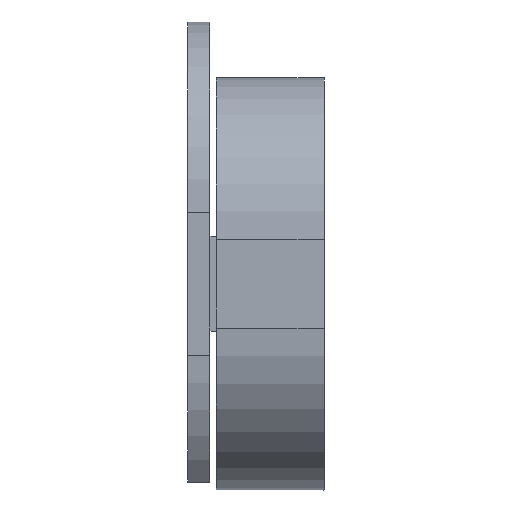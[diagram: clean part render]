
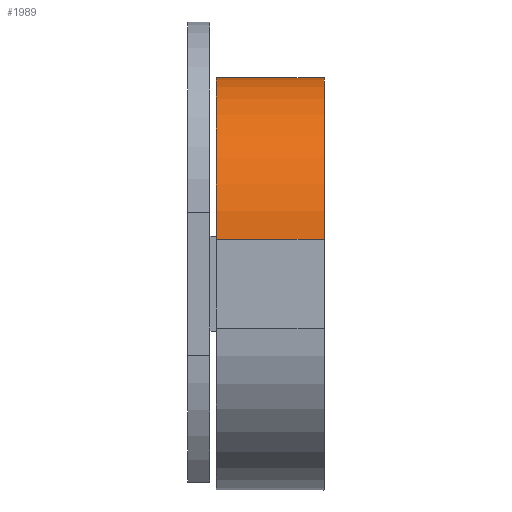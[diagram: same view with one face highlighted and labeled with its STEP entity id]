
A CAD part, front view. The second image highlights one B-rep face of the part: STEP entity #1989.
In plain terms, the highlighted cylindrical face has radius 5.1 mm (diameter 10.2 mm), a partial arc.
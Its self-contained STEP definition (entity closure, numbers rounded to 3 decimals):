
#1142 = PLANE('',#1143);
#1143 = AXIS2_PLACEMENT_3D('',#1144,#1145,#1146);
#1144 = CARTESIAN_POINT('',(40.9,20.5,6.5));
#1145 = DIRECTION('',(1.,0.,0.));
#1146 = DIRECTION('',(0.,0.,-1.));
#1484 = VERTEX_POINT('',#1485);
#1485 = CARTESIAN_POINT('',(40.9,25.6,6.5));
#1501 = PLANE('',#1502);
#1502 = AXIS2_PLACEMENT_3D('',#1503,#1504,#1505);
#1503 = CARTESIAN_POINT('',(40.9,20.5,6.5));
#1504 = DIRECTION('',(0.,0.,-1.));
#1505 = DIRECTION('',(1.,0.,0.));
#1513 = EDGE_CURVE('',#1484,#1514,#1516,.T.);
#1514 = VERTEX_POINT('',#1515);
#1515 = CARTESIAN_POINT('',(40.9,20.5,1.4));
#1516 = SURFACE_CURVE('',#1517,(#1522,#1529),.PCURVE_S1.);
#1517 = CIRCLE('',#1518,5.1);
#1518 = AXIS2_PLACEMENT_3D('',#1519,#1520,#1521);
#1519 = CARTESIAN_POINT('',(40.9,25.6,1.4));
#1520 = DIRECTION('',(1.,0.,0.));
#1521 = DIRECTION('',(0.,-1.,0.));
#1522 = PCURVE('',#1142,#1523);
#1523 = DEFINITIONAL_REPRESENTATION('',(#1524),#1528);
#1524 = CIRCLE('',#1525,5.1);
#1525 = AXIS2_PLACEMENT_2D('',#1526,#1527);
#1526 = CARTESIAN_POINT('',(5.1,5.1));
#1527 = DIRECTION('',(0.,-1.));
#1528 = ( GEOMETRIC_REPRESENTATION_CONTEXT(2) 
PARAMETRIC_REPRESENTATION_CONTEXT() REPRESENTATION_CONTEXT('2D SPACE',''
  ) );
#1529 = PCURVE('',#1530,#1535);
#1530 = CYLINDRICAL_SURFACE('',#1531,5.1);
#1531 = AXIS2_PLACEMENT_3D('',#1532,#1533,#1534);
#1532 = CARTESIAN_POINT('',(40.9,25.6,1.4));
#1533 = DIRECTION('',(1.,0.,0.));
#1534 = DIRECTION('',(0.,0.,1.));
#1535 = DEFINITIONAL_REPRESENTATION('',(#1536),#1540);
#1536 = LINE('',#1537,#1538);
#1537 = CARTESIAN_POINT('',(-4.712,0.));
#1538 = VECTOR('',#1539,1.);
#1539 = DIRECTION('',(1.,0.));
#1540 = ( GEOMETRIC_REPRESENTATION_CONTEXT(2) 
PARAMETRIC_REPRESENTATION_CONTEXT() REPRESENTATION_CONTEXT('2D SPACE',''
  ) );
#1558 = PLANE('',#1559);
#1559 = AXIS2_PLACEMENT_3D('',#1560,#1561,#1562);
#1560 = CARTESIAN_POINT('',(40.9,20.5,6.5));
#1561 = DIRECTION('',(0.,1.,0.));
#1562 = DIRECTION('',(1.,-0.,0.));
#1841 = VERTEX_POINT('',#1842);
#1842 = CARTESIAN_POINT('',(44.3,25.6,6.5));
#1858 = PLANE('',#1859);
#1859 = AXIS2_PLACEMENT_3D('',#1860,#1861,#1862);
#1860 = CARTESIAN_POINT('',(44.3,20.5,6.5));
#1861 = DIRECTION('',(1.,0.,0.));
#1862 = DIRECTION('',(0.,0.,-1.));
#1870 = EDGE_CURVE('',#1484,#1841,#1871,.T.);
#1871 = SURFACE_CURVE('',#1872,(#1876,#1883),.PCURVE_S1.);
#1872 = LINE('',#1873,#1874);
#1873 = CARTESIAN_POINT('',(40.9,25.6,6.5));
#1874 = VECTOR('',#1875,1.);
#1875 = DIRECTION('',(1.,0.,0.));
#1876 = PCURVE('',#1501,#1877);
#1877 = DEFINITIONAL_REPRESENTATION('',(#1878),#1882);
#1878 = LINE('',#1879,#1880);
#1879 = CARTESIAN_POINT('',(0.,-5.1));
#1880 = VECTOR('',#1881,1.);
#1881 = DIRECTION('',(1.,0.));
#1882 = ( GEOMETRIC_REPRESENTATION_CONTEXT(2) 
PARAMETRIC_REPRESENTATION_CONTEXT() REPRESENTATION_CONTEXT('2D SPACE',''
  ) );
#1883 = PCURVE('',#1530,#1884);
#1884 = DEFINITIONAL_REPRESENTATION('',(#1885),#1889);
#1885 = LINE('',#1886,#1887);
#1886 = CARTESIAN_POINT('',(0.,0.));
#1887 = VECTOR('',#1888,1.);
#1888 = DIRECTION('',(0.,1.));
#1889 = ( GEOMETRIC_REPRESENTATION_CONTEXT(2) 
PARAMETRIC_REPRESENTATION_CONTEXT() REPRESENTATION_CONTEXT('2D SPACE',''
  ) );
#1989 = ADVANCED_FACE('',(#1990),#1530,.T.);
#1990 = FACE_BOUND('',#1991,.T.);
#1991 = EDGE_LOOP('',(#1992,#1993,#2016,#2038));
#1992 = ORIENTED_EDGE('',*,*,#1513,.T.);
#1993 = ORIENTED_EDGE('',*,*,#1994,.T.);
#1994 = EDGE_CURVE('',#1514,#1995,#1997,.T.);
#1995 = VERTEX_POINT('',#1996);
#1996 = CARTESIAN_POINT('',(44.3,20.5,1.4));
#1997 = SURFACE_CURVE('',#1998,(#2002,#2009),.PCURVE_S1.);
#1998 = LINE('',#1999,#2000);
#1999 = CARTESIAN_POINT('',(40.9,20.5,1.4));
#2000 = VECTOR('',#2001,1.);
#2001 = DIRECTION('',(1.,0.,0.));
#2002 = PCURVE('',#1530,#2003);
#2003 = DEFINITIONAL_REPRESENTATION('',(#2004),#2008);
#2004 = LINE('',#2005,#2006);
#2005 = CARTESIAN_POINT('',(1.571,0.));
#2006 = VECTOR('',#2007,1.);
#2007 = DIRECTION('',(0.,1.));
#2008 = ( GEOMETRIC_REPRESENTATION_CONTEXT(2) 
PARAMETRIC_REPRESENTATION_CONTEXT() REPRESENTATION_CONTEXT('2D SPACE',''
  ) );
#2009 = PCURVE('',#1558,#2010);
#2010 = DEFINITIONAL_REPRESENTATION('',(#2011),#2015);
#2011 = LINE('',#2012,#2013);
#2012 = CARTESIAN_POINT('',(0.,5.1));
#2013 = VECTOR('',#2014,1.);
#2014 = DIRECTION('',(1.,0.));
#2015 = ( GEOMETRIC_REPRESENTATION_CONTEXT(2) 
PARAMETRIC_REPRESENTATION_CONTEXT() REPRESENTATION_CONTEXT('2D SPACE',''
  ) );
#2016 = ORIENTED_EDGE('',*,*,#2017,.F.);
#2017 = EDGE_CURVE('',#1841,#1995,#2018,.T.);
#2018 = SURFACE_CURVE('',#2019,(#2024,#2031),.PCURVE_S1.);
#2019 = CIRCLE('',#2020,5.1);
#2020 = AXIS2_PLACEMENT_3D('',#2021,#2022,#2023);
#2021 = CARTESIAN_POINT('',(44.3,25.6,1.4));
#2022 = DIRECTION('',(1.,0.,0.));
#2023 = DIRECTION('',(0.,-1.,0.));
#2024 = PCURVE('',#1530,#2025);
#2025 = DEFINITIONAL_REPRESENTATION('',(#2026),#2030);
#2026 = LINE('',#2027,#2028);
#2027 = CARTESIAN_POINT('',(-4.712,3.4));
#2028 = VECTOR('',#2029,1.);
#2029 = DIRECTION('',(1.,0.));
#2030 = ( GEOMETRIC_REPRESENTATION_CONTEXT(2) 
PARAMETRIC_REPRESENTATION_CONTEXT() REPRESENTATION_CONTEXT('2D SPACE',''
  ) );
#2031 = PCURVE('',#1858,#2032);
#2032 = DEFINITIONAL_REPRESENTATION('',(#2033),#2037);
#2033 = CIRCLE('',#2034,5.1);
#2034 = AXIS2_PLACEMENT_2D('',#2035,#2036);
#2035 = CARTESIAN_POINT('',(5.1,5.1));
#2036 = DIRECTION('',(0.,-1.));
#2037 = ( GEOMETRIC_REPRESENTATION_CONTEXT(2) 
PARAMETRIC_REPRESENTATION_CONTEXT() REPRESENTATION_CONTEXT('2D SPACE',''
  ) );
#2038 = ORIENTED_EDGE('',*,*,#1870,.F.);
